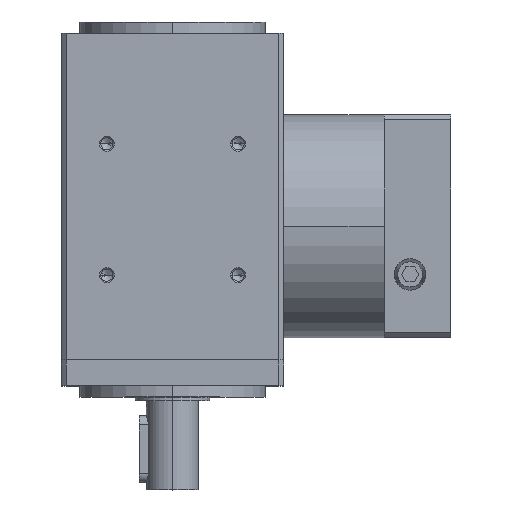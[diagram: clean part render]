
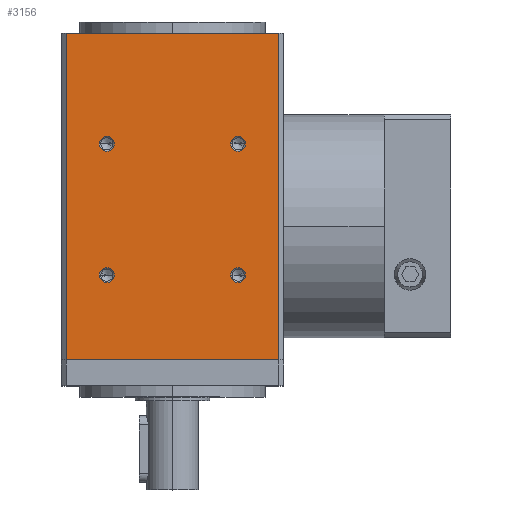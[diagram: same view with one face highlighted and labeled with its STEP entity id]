
A CAD part, top view. The second image highlights one B-rep face of the part: STEP entity #3156.
In plain terms, the highlighted planar face has unit normal (0, 0, 1).
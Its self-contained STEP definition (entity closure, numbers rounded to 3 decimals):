
#13 = CARTESIAN_POINT ( 'NONE',  ( -19.678, 22.178, 30. ) ) ;
#18 = CARTESIAN_POINT ( 'NONE',  ( 15.678, 22.178, 30. ) ) ;
#739 = FACE_BOUND ( 'NONE', #2926, .T. ) ;
#740 = FACE_BOUND ( 'NONE', #2965, .T. ) ;
#741 = FACE_BOUND ( 'NONE', #2964, .T. ) ;
#742 = FACE_BOUND ( 'NONE', #2934, .T. ) ;
#743 = FACE_OUTER_BOUND ( 'NONE', #2925, .T. ) ;
#1288 = VERTEX_POINT ( 'NONE', #3440 ) ;
#1304 = VERTEX_POINT ( 'NONE', #3377 ) ;
#1354 = VERTEX_POINT ( 'NONE', #3329 ) ;
#1370 = VERTEX_POINT ( 'NONE', #3300 ) ;
#1376 = VERTEX_POINT ( 'NONE', #3312 ) ;
#1379 = VERTEX_POINT ( 'NONE', #3309 ) ;
#1396 = VERTEX_POINT ( 'NONE', #3274 ) ;
#1397 = VERTEX_POINT ( 'NONE', #3273 ) ;
#1430 = VERTEX_POINT ( 'NONE', #13 ) ;
#1435 = VERTEX_POINT ( 'NONE', #18 ) ;
#1548 = CIRCLE ( 'NONE', #1816, 2. ) ;
#1563 = CIRCLE ( 'NONE', #1819, 2. ) ;
#1578 = CIRCLE ( 'NONE', #1822, 2. ) ;
#1593 = CIRCLE ( 'NONE', #1825, 2. ) ;
#1682 = LINE ( 'NONE', #2031, #1684 ) ;
#1684 = VECTOR ( 'NONE', #2033, 1000. ) ;
#1723 = LINE ( 'NONE', #2167, #1725 ) ;
#1725 = VECTOR ( 'NONE', #2168, 1000. ) ;
#1727 = CIRCLE ( 'NONE', #1862, 2. ) ;
#1728 = CIRCLE ( 'NONE', #1863, 2. ) ;
#1729 = CIRCLE ( 'NONE', #1864, 2. ) ;
#1730 = LINE ( 'NONE', #2184, #1732 ) ;
#1731 = CIRCLE ( 'NONE', #1865, 2. ) ;
#1732 = VECTOR ( 'NONE', #2185, 1000. ) ;
#1733 = LINE ( 'NONE', #2186, #1734 ) ;
#1734 = VECTOR ( 'NONE', #2187, 1000. ) ;
#1816 = AXIS2_PLACEMENT_3D ( 'NONE', #3996, #3997, #3998 ) ;
#1819 = AXIS2_PLACEMENT_3D ( 'NONE', #4017, #4018, #4019 ) ;
#1822 = AXIS2_PLACEMENT_3D ( 'NONE', #4038, #4039, #4040 ) ;
#1825 = AXIS2_PLACEMENT_3D ( 'NONE', #4059, #4060, #4061 ) ;
#1862 = AXIS2_PLACEMENT_3D ( 'NONE', #2172, #2173, #2174 ) ;
#1863 = AXIS2_PLACEMENT_3D ( 'NONE', #2175, #2176, #2177 ) ;
#1864 = AXIS2_PLACEMENT_3D ( 'NONE', #2178, #2179, #2180 ) ;
#1865 = AXIS2_PLACEMENT_3D ( 'NONE', #2181, #2182, #2183 ) ;
#2031 = CARTESIAN_POINT ( 'NONE',  ( -28.675, -36., 30. ) ) ;
#2033 = DIRECTION ( 'NONE',  ( 0., 1., 0. ) ) ;
#2167 = CARTESIAN_POINT ( 'NONE',  ( 28.675, -36., 30. ) ) ;
#2168 = DIRECTION ( 'NONE',  ( 0., 1., 0. ) ) ;
#2172 = CARTESIAN_POINT ( 'NONE',  ( -17.678, 22.178, 30. ) ) ;
#2173 = DIRECTION ( 'NONE',  ( 0., 0., 1. ) ) ;
#2174 = DIRECTION ( 'NONE',  ( 1., 0., 0. ) ) ;
#2175 = CARTESIAN_POINT ( 'NONE',  ( 17.678, 22.178, 30. ) ) ;
#2176 = DIRECTION ( 'NONE',  ( 0., 0., 1. ) ) ;
#2177 = DIRECTION ( 'NONE',  ( 1., 0., 0. ) ) ;
#2178 = CARTESIAN_POINT ( 'NONE',  ( 17.678, -13.178, 30. ) ) ;
#2179 = DIRECTION ( 'NONE',  ( 0., 0., 1. ) ) ;
#2180 = DIRECTION ( 'NONE',  ( 1., 0., 0. ) ) ;
#2181 = CARTESIAN_POINT ( 'NONE',  ( -17.678, -13.178, 30. ) ) ;
#2182 = DIRECTION ( 'NONE',  ( 0., 0., 1. ) ) ;
#2183 = DIRECTION ( 'NONE',  ( 1., 0., 0. ) ) ;
#2184 = CARTESIAN_POINT ( 'NONE',  ( -28.675, 52., 30. ) ) ;
#2185 = DIRECTION ( 'NONE',  ( -1., 0., 0. ) ) ;
#2186 = CARTESIAN_POINT ( 'NONE',  ( -28.675, -36., 30. ) ) ;
#2187 = DIRECTION ( 'NONE',  ( 1., 0., 0. ) ) ;
#2274 = PLANE ( 'NONE',  #5307 ) ;
#2275 = CARTESIAN_POINT ( 'NONE',  ( -28.675, -36., 30. ) ) ;
#2276 = DIRECTION ( 'NONE',  ( 0., 0., 1. ) ) ;
#2277 = DIRECTION ( 'NONE',  ( 1., 0., 0. ) ) ;
#2611 = CARTESIAN_POINT ( 'NONE',  ( 28.675, -36., 30. ) ) ;
#2632 = CARTESIAN_POINT ( 'NONE',  ( 28.675, 52., 30. ) ) ;
#2925 = EDGE_LOOP ( 'NONE', ( #5162, #5163, #5164, #5165 ) ) ;
#2926 = EDGE_LOOP ( 'NONE', ( #5159, #5517 ) ) ;
#2934 = EDGE_LOOP ( 'NONE', ( #5160, #5161 ) ) ;
#2964 = EDGE_LOOP ( 'NONE', ( #5520, #5483 ) ) ;
#2965 = EDGE_LOOP ( 'NONE', ( #5518, #5519 ) ) ;
#3156 = ADVANCED_FACE ( 'NONE', ( #739, #740, #741, #742, #743 ), #2274, .T. ) ;
#3273 = CARTESIAN_POINT ( 'NONE',  ( 15.678, -13.178, 30. ) ) ;
#3274 = CARTESIAN_POINT ( 'NONE',  ( 19.678, -13.178, 30. ) ) ;
#3300 = CARTESIAN_POINT ( 'NONE',  ( -15.678, 22.178, 30. ) ) ;
#3309 = CARTESIAN_POINT ( 'NONE',  ( -15.678, -13.178, 30. ) ) ;
#3312 = CARTESIAN_POINT ( 'NONE',  ( 19.678, 22.178, 30. ) ) ;
#3329 = CARTESIAN_POINT ( 'NONE',  ( -28.675, 52., 30. ) ) ;
#3377 = CARTESIAN_POINT ( 'NONE',  ( -19.678, -13.178, 30. ) ) ;
#3379 = VERTEX_POINT ( 'NONE', #2611 ) ;
#3440 = CARTESIAN_POINT ( 'NONE',  ( -28.675, -36., 30. ) ) ;
#3450 = VERTEX_POINT ( 'NONE', #2632 ) ;
#3996 = CARTESIAN_POINT ( 'NONE',  ( -17.678, 22.178, 30. ) ) ;
#3997 = DIRECTION ( 'NONE',  ( 0., 0., 1. ) ) ;
#3998 = DIRECTION ( 'NONE',  ( 1., 0., 0. ) ) ;
#4017 = CARTESIAN_POINT ( 'NONE',  ( 17.678, 22.178, 30. ) ) ;
#4018 = DIRECTION ( 'NONE',  ( 0., 0., 1. ) ) ;
#4019 = DIRECTION ( 'NONE',  ( 1., 0., 0. ) ) ;
#4038 = CARTESIAN_POINT ( 'NONE',  ( 17.678, -13.178, 30. ) ) ;
#4039 = DIRECTION ( 'NONE',  ( 0., 0., 1. ) ) ;
#4040 = DIRECTION ( 'NONE',  ( 1., 0., 0. ) ) ;
#4059 = CARTESIAN_POINT ( 'NONE',  ( -17.678, -13.178, 30. ) ) ;
#4060 = DIRECTION ( 'NONE',  ( 0., 0., 1. ) ) ;
#4061 = DIRECTION ( 'NONE',  ( 1., 0., 0. ) ) ;
#4334 = EDGE_CURVE ( 'NONE', #1430, #1370, #1548, .T. ) ;
#4343 = EDGE_CURVE ( 'NONE', #1435, #1376, #1563, .T. ) ;
#4352 = EDGE_CURVE ( 'NONE', #1397, #1396, #1578, .T. ) ;
#4361 = EDGE_CURVE ( 'NONE', #1304, #1379, #1593, .T. ) ;
#4417 = EDGE_CURVE ( 'NONE', #1288, #1354, #1682, .T. ) ;
#4445 = EDGE_CURVE ( 'NONE', #3379, #3450, #1723, .T. ) ;
#4447 = EDGE_CURVE ( 'NONE', #1370, #1430, #1727, .T. ) ;
#4448 = EDGE_CURVE ( 'NONE', #1376, #1435, #1728, .T. ) ;
#4449 = EDGE_CURVE ( 'NONE', #1396, #1397, #1729, .T. ) ;
#4450 = EDGE_CURVE ( 'NONE', #1379, #1304, #1731, .T. ) ;
#4451 = EDGE_CURVE ( 'NONE', #3450, #1354, #1730, .T. ) ;
#4452 = EDGE_CURVE ( 'NONE', #1288, #3379, #1733, .T. ) ;
#5159 = ORIENTED_EDGE ( 'NONE', *, *, #4447, .F. ) ;
#5160 = ORIENTED_EDGE ( 'NONE', *, *, #4450, .F. ) ;
#5161 = ORIENTED_EDGE ( 'NONE', *, *, #4361, .F. ) ;
#5162 = ORIENTED_EDGE ( 'NONE', *, *, #4445, .T. ) ;
#5163 = ORIENTED_EDGE ( 'NONE', *, *, #4451, .T. ) ;
#5164 = ORIENTED_EDGE ( 'NONE', *, *, #4417, .F. ) ;
#5165 = ORIENTED_EDGE ( 'NONE', *, *, #4452, .T. ) ;
#5307 = AXIS2_PLACEMENT_3D ( 'NONE', #2275, #2276, #2277 ) ;
#5483 = ORIENTED_EDGE ( 'NONE', *, *, #4352, .F. ) ;
#5517 = ORIENTED_EDGE ( 'NONE', *, *, #4334, .F. ) ;
#5518 = ORIENTED_EDGE ( 'NONE', *, *, #4448, .F. ) ;
#5519 = ORIENTED_EDGE ( 'NONE', *, *, #4343, .F. ) ;
#5520 = ORIENTED_EDGE ( 'NONE', *, *, #4449, .F. ) ;
